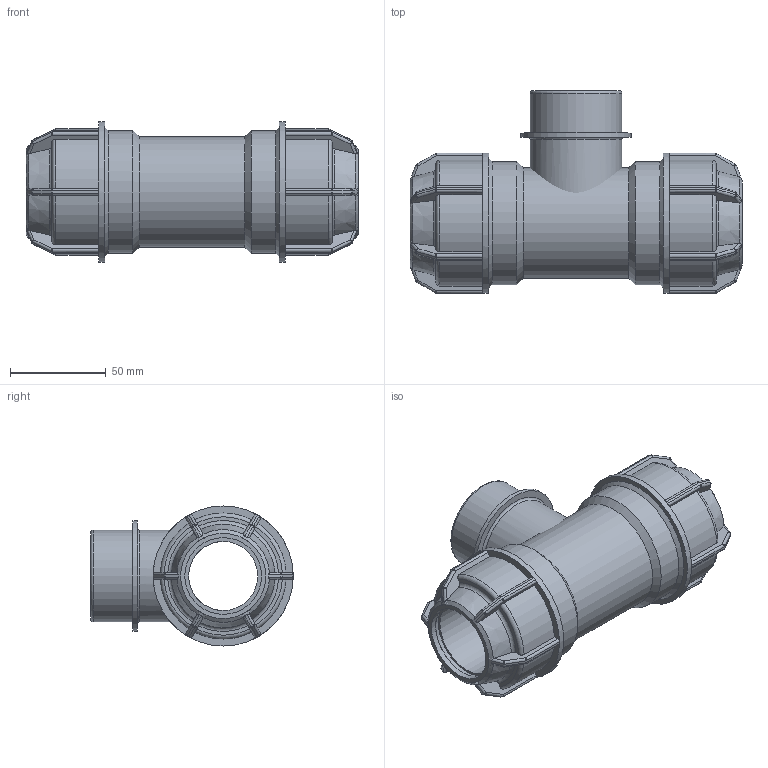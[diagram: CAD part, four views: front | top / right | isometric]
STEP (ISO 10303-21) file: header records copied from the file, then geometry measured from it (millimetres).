
FILE_DESCRIPTION(/* description */ ('PLASSON L.14 TEE MALE ADAPTOR (SILVER) 40-1.1/2"-40'),/* implementation_level */ '2;1');
FILE_NAME(/* name */ 'C:\Dropbox\KIMPROJECTS-Inventor\99-16-3568-Processing\Silver+MF ISRAEL\148400\148400040015.ipt.stp',/* time_stamp */ '2018-04-09T13:05:27+03:00',/* author */ ('KIM'),/* organization */ (''),/* preprocessor_version */ 'ST-DEVELOPER v15.6',/* originating_system */ 'Autodesk Inventor 2015',/* authorisation */ '');
FILE_SCHEMA (('AUTOMOTIVE_DESIGN { 1 0 10303 214 3 1 1 }'));
Length unit declared in the file: millimetre
Products named in the file (1): 148400040015
Bounding box: 173 x 105.5 x 73 mm (x, y, z)
Volume: 339288.7 mm3; surface area: 82777.5 mm2
Topology: 2 solids, 2 shells, 417 faces, 994 edges, 572 vertices
Faces by surface type: plane 197, cylinder 124, sphere 48, torus 30, cone 18
Full cylindrical faces by diameter (mm): 36 x3, 40 x4, 47.803 x2, 57.364 x1, 57.6 x1, 64 x2, 73 x2
Entity records: 12173 total; most frequent: CARTESIAN_POINT 3206, DIRECTION 1886, ORIENTED_EDGE 1836, EDGE_CURVE 918, AXIS2_PLACEMENT_3D 762, VERTEX_POINT 544, EDGE_LOOP 454, FACE_OUTER_BOUND 413
